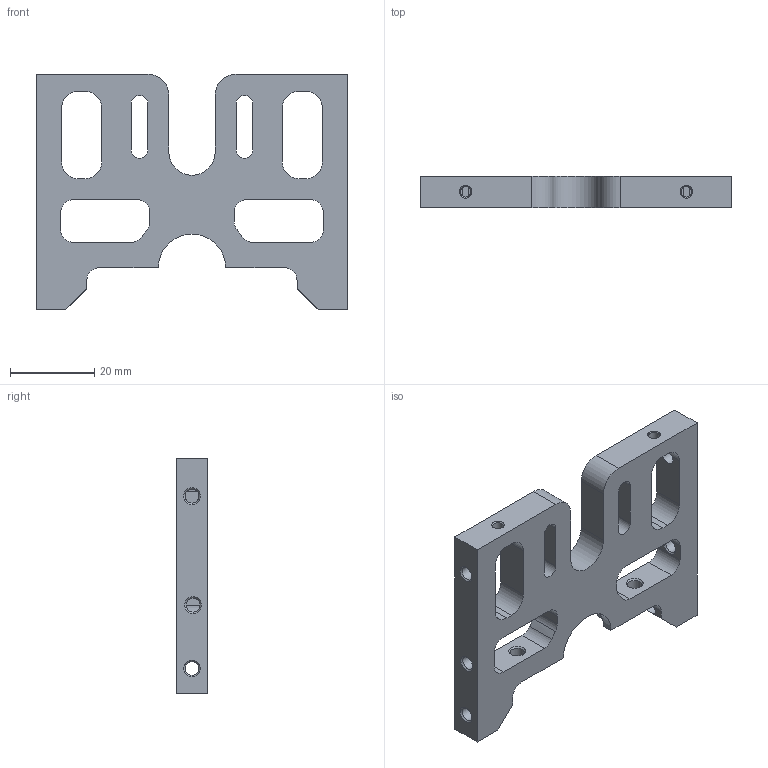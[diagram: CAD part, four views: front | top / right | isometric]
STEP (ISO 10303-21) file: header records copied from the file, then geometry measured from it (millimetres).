
FILE_DESCRIPTION(/* description */ (''),/* implementation_level */ '2;1');
FILE_NAME(/* name */ 'central_diff_bracket_rear_26012016.stp',/* time_stamp */ '2016-01-26T01:29:44+03:00',/* author */ (''),/* organization */ (''),/* preprocessor_version */ 'ST-DEVELOPER v15',/* originating_system */ 'SIEMENS PLM Software NX 9.0',/* authorisation */ '');
FILE_SCHEMA (('AUTOMOTIVE_DESIGN { 1 0 10303 214 3 1 1 1 }'));
Length unit declared in the file: millimetre
Products named in the file (1): c0f007BCC3D27iux
Bounding box: 74 x 7.5 x 56 mm (x, y, z)
Volume: 16359.3 mm3; surface area: 9892 mm2
Topology: 1 solids, 1 shells, 107 faces, 315 edges, 206 vertices
Faces by surface type: plane 47, cylinder 43, cone 15, extrusion 2
Full cylindrical faces by diameter (mm): 2.5 x2, 3.3 x8
Entity records: 3661 total; most frequent: CARTESIAN_POINT 780, DIRECTION 593, ORIENTED_EDGE 568, EDGE_CURVE 284, AXIS2_PLACEMENT_3D 213, VERTEX_POINT 200, VECTOR 167, LINE 165
